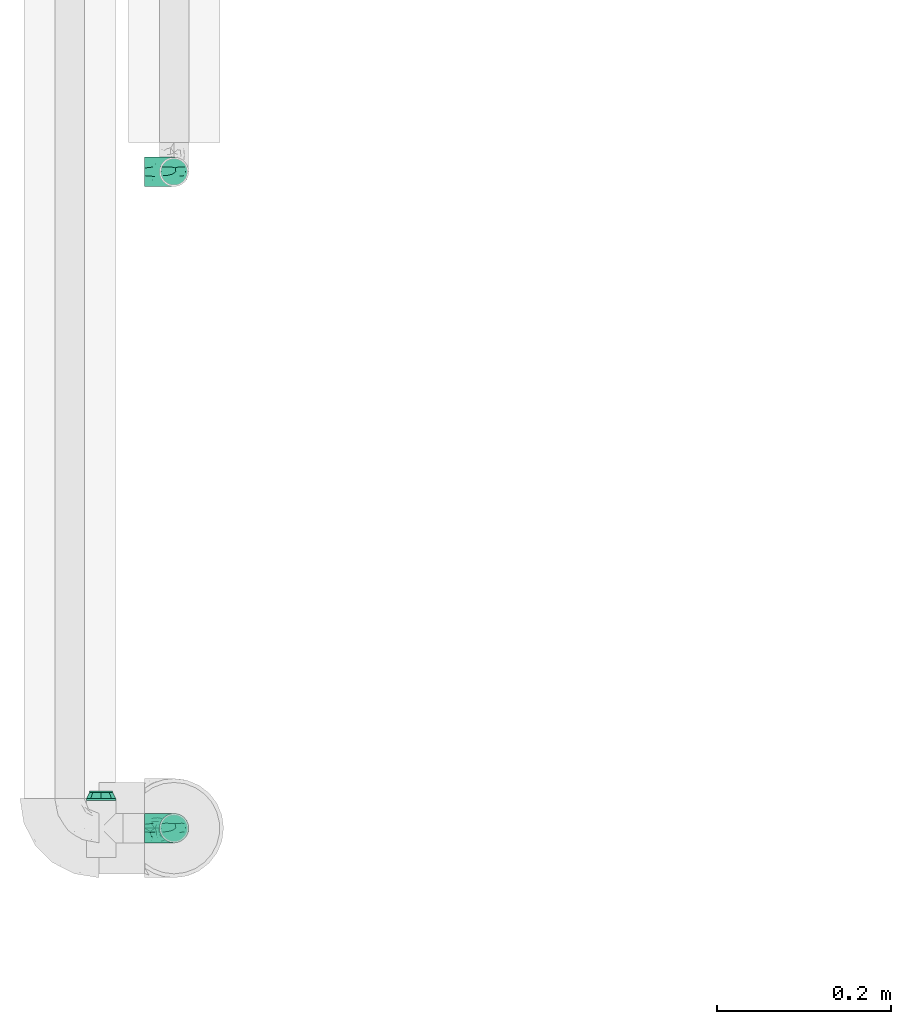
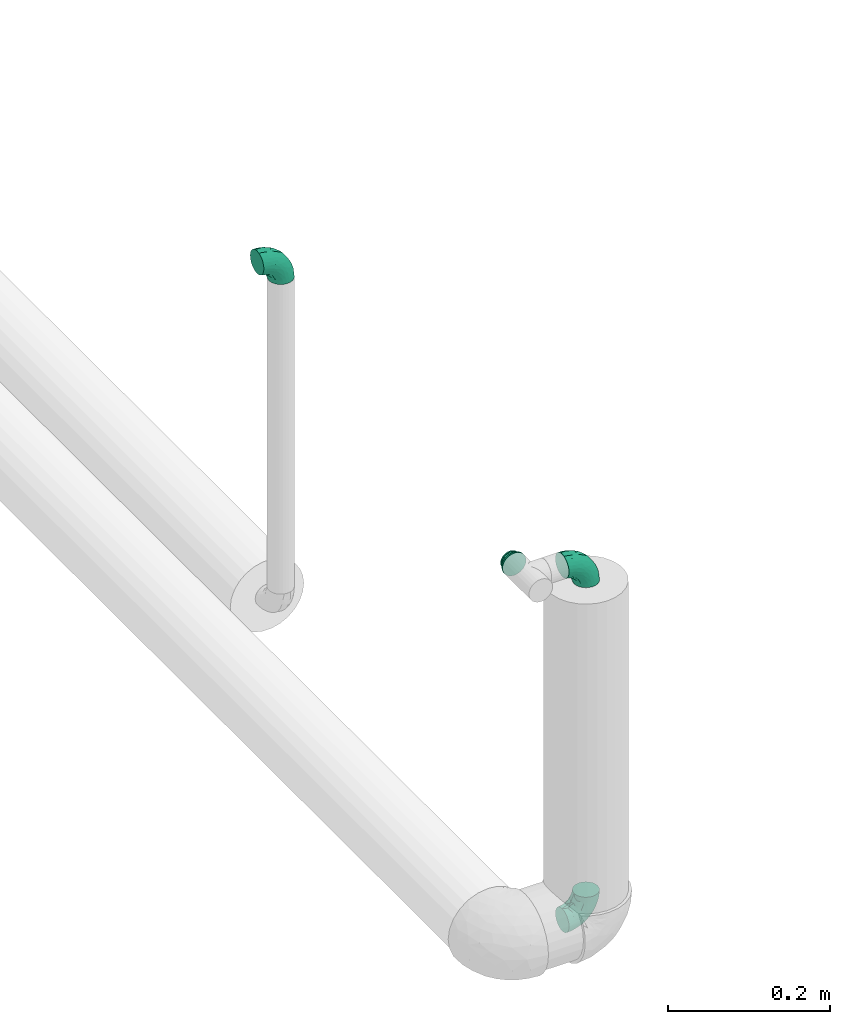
# One storey, part 8 of 17: 4 flow fittings.
"""IFC2X3 building model written with IfcOpenShell, lengths in millimetres."""

from ifc_helpers import new_model, entity, si_unit, converted_unit, derived_unit, direction, frame, origin_with_axes, place, context, subcontext, project, spatial, open_shell, surface_model, source, transform, mapped, type_object, element, save


model = new_model("IFC2X3")

# Units and contexts
model_context = context("Model", 3, precision=0.01, world=frame((0.0, 4.29681676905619e-09, 0.0)), true_north=direction((4.01073788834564e-13, 1.0)))
plan_context = context("Plan", 3, precision=0.01, world=frame((0.0, 4.29681676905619e-09, 0.0)), true_north=direction((4.01073788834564e-13, 1.0)))
body_context = subcontext(model_context, "Body", "Model", "MODEL_VIEW")
ifc_project = project(units=[converted_unit("PLANEANGLEUNIT", "DEGREE", entity("IfcPositiveLengthMeasure", 0.0174532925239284), si_unit("PLANEANGLEUNIT", "RADIAN"), dimensions=[0, 0, 0, 0, 0, 0, 0]), si_unit("AREAUNIT", "SQUARE_METRE"), si_unit("LENGTHUNIT", "METRE", prefix="MILLI"), si_unit("MASSUNIT", "GRAM", prefix="KILO"), si_unit("POWERUNIT", "WATT"), si_unit("PRESSUREUNIT", "PASCAL", prefix="KILO"), si_unit("FORCEUNIT", "NEWTON", prefix="KILO"), si_unit("ELECTRICVOLTAGEUNIT", "VOLT"), si_unit("ELECTRICCURRENTUNIT", "AMPERE"), si_unit("THERMODYNAMICTEMPERATUREUNIT", "DEGREE_CELSIUS"), si_unit("TIMEUNIT", "SECOND"), si_unit("VOLUMEUNIT", "CUBIC_METRE"), derived_unit("LINEARVELOCITYUNIT", [(si_unit("LENGTHUNIT", "METRE"), 1), (si_unit("TIMEUNIT", "SECOND"), -1)]), derived_unit("VOLUMETRICFLOWRATEUNIT", [(si_unit("VOLUMEUNIT", "CUBIC_METRE"), 1), (si_unit("TIMEUNIT", "SECOND"), -1)]), derived_unit("THERMALTRANSMITTANCEUNIT", [(si_unit("POWERUNIT", "WATT"), 1), (si_unit("THERMODYNAMICTEMPERATUREUNIT", "KELVIN"), -1), (si_unit("AREAUNIT", "SQUARE_METRE"), -1)]), derived_unit("SOUNDPRESSUREUNIT", [(si_unit("PRESSUREUNIT", "PASCAL"), 1)])], contexts=[model_context, plan_context])

# Site, building, storey
site_placement = place(None, frame((0.0, -4.29681676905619e-09, 0.0), z_axis=(0.0, 0.0, 1.0), x_axis=(1.0, 0.0, 0.0)))
site = spatial("IfcSite", under=ifc_project, at=site_placement, Name="ENGM", CompositionType="ELEMENT")
building_placement = place(site_placement, frame((0.0, 4.29681676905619e-09, 0.0), z_axis=(0.0, 0.0, 1.0), x_axis=(1.0, 0.0, 0.0)))
building = spatial("IfcBuilding", under=site, at=building_placement, Name="TI", CompositionType="ELEMENT")
storey_placement = place(building_placement, frame((0.0, 0.0, 207370.0), z_axis=(0.0, 0.0, 1.0), x_axis=(1.0, 0.0, 0.0)))
storey = spatial("IfcBuildingStorey", under=building, at=storey_placement, Name="Nivå E", CompositionType="ELEMENT", Elevation=207370.0)

# Flow fittings
pipe_fitting_type_1 = type_object("IfcPipeFittingType", Name="magi_pipe_fe_reducer_centric_short_NOR", PredefinedType="TRANSITION")
shared_shape_1 = source(origin_with_axes(), body_context, "Body", "SurfaceModel", [
    surface_model("IfcShellBasedSurfaceModel", [(-2.0, 11.9501, 11.9501), (-2.0, 0.0, 16.9), (-2.0, 4.37404, 16.32415), (-2.0, 8.45, 14.63583), (-2.0, 14.63583, 8.45), (-2.0, 16.32415, 4.37404), (-2.0, -16.32415, 4.37404), (-2.0, -8.45, 14.63583), (-2.0, -14.63583, 8.45), (-2.0, -11.9501, 11.9501), (-2.0, -4.37404, 16.32415), (-2.0, -16.32415, -4.37404), (-2.0, -16.9, 0.0), (-2.0, -8.45, -14.63583), (-2.0, 16.32415, -4.37404), (-2.0, 11.9501, -11.9501), (-2.0, 14.63583, -8.45), (-2.0, 8.45, -14.63583), (-2.0, 4.37404, -16.32415), (-2.0, 0.0, -16.9), (-2.0, -11.9501, -11.9501), (-2.0, -14.63583, -8.45), (-2.0, -4.37404, -16.32415), (-2.0, 16.9, 0.0), (0.0, 4.37404, -16.32415), (0.0, 8.45, -14.63583), (0.0, 11.9501, -11.9501), (0.0, 0.0, -16.9), (0.0, 16.32415, -4.37404), (0.0, 16.32415, 4.37404), (0.0, 14.63583, -8.45), (0.0, -8.45, -14.63583), (0.0, -4.37404, -16.32415), (0.0, -11.9501, -11.9501), (0.0, -16.32415, -4.37404), (0.0, -14.63583, -8.45), (0.0, -16.32415, 4.37404), (0.0, 16.9, 0.0), (0.0, 14.63583, 8.45), (0.0, 11.9501, 11.9501), (0.0, 4.37404, 16.32415), (0.0, 8.45, 14.63583), (0.0, 0.0, 16.9), (0.0, -14.63583, 8.45), (0.0, -16.9, 0.0), (0.0, -8.45, 14.63583), (0.0, -11.9501, 11.9501), (0.0, -4.37404, 16.32415), (9.0, 12.94341, -3.46818), (9.0, 3.46818, -12.94341), (9.0, 6.7, -11.60474), (9.0, 9.47523, -9.47523), (9.0, -6.7, -11.60474), (9.0, -12.94341, 3.46818), (9.0, 11.60474, -6.7), (9.0, 0.0, -13.4), (9.0, -3.46818, -12.94341), (9.0, -9.47523, -9.47523), (9.0, -12.94341, -3.46818), (9.0, -11.60474, -6.7), (9.0, 13.4, 0.0), (9.0, 12.94341, 3.46818), (9.0, 11.60474, 6.7), (9.0, 9.47523, 9.47523), (9.0, 0.0, 13.4), (9.0, 6.7, 11.60474), (9.0, 3.46818, 12.94341), (9.0, -6.7, 11.60474), (9.0, -9.47523, 9.47523), (9.0, -11.60474, 6.7), (9.0, -13.4, 0.0), (9.0, -3.46818, 12.94341), (7.0, 0.0, 13.4), (7.0, 3.46818, 12.94341), (7.0, 6.7, 11.60474), (7.0, -3.46818, 12.94341), (7.0, 9.47523, 9.47523), (7.0, 11.60474, 6.7), (7.0, 12.94341, 3.46818), (7.0, -12.94341, 3.46818), (7.0, -9.47523, 9.47523), (7.0, -6.7, 11.60474), (7.0, -11.60474, 6.7), (7.0, -12.94341, -3.46818), (7.0, -13.4, 0.0), (7.0, -6.7, -11.60474), (7.0, 12.94341, -3.46818), (7.0, 9.47523, -9.47523), (7.0, 11.60474, -6.7), (7.0, 6.7, -11.60474), (7.0, 3.46818, -12.94341), (7.0, -9.47523, -9.47523), (7.0, -11.60474, -6.7), (7.0, 0.0, -13.4), (7.0, -3.46818, -12.94341), (7.0, 13.4, 0.0), (0.0, 13.18758, -8.96258), (0.0, 14.42505, -5.97505), (7.0, 10.491, -7.02294), (7.0, 11.50677, -4.57065), (0.0, 15.66253, -2.98753), (7.0, 12.45339, -2.28533), (0.0, 2.98753, -15.66253), (0.0, 5.97505, -14.42505), (0.0, 8.96258, -13.18758), (7.0, 4.73762, -11.43761), (7.0, 7.10642, -10.45642), (7.0, 2.36881, -12.41881), (0.0, -14.42505, -5.97505), (7.0, -11.43761, -4.73762), (7.0, -12.41881, -2.36881), (7.0, -2.36881, -12.41881), (7.0, -10.45642, -7.10642), (0.0, -15.70614, -2.88224), (0.0, -13.18758, -8.96258), (7.0, -4.73762, -11.43761), (7.0, -7.10642, -10.45642), (0.0, -5.97505, -14.42505), (0.0, -2.98753, -15.66253), (0.0, -8.96258, -13.18758), (0.0, -13.18758, 8.96258), (0.0, -14.42505, 5.97505), (7.0, -10.491, 7.02294), (7.0, -11.50677, 4.57065), (0.0, -15.66253, 2.98753), (7.0, -12.45339, 2.28533), (0.0, -2.98753, 15.66253), (0.0, -5.97505, 14.42505), (0.0, -8.96258, 13.18758), (7.0, -4.73762, 11.43761), (7.0, -7.10642, 10.45642), (7.0, -2.36881, 12.41881), (0.0, 14.42505, 5.97505), (7.0, 11.43761, 4.73762), (7.0, 12.41881, 2.36881), (7.0, 2.36881, 12.41881), (7.0, 10.45642, 7.10642), (0.0, 15.70614, 2.88224), (0.0, 13.18758, 8.96258), (7.0, 4.73762, 11.43761), (7.0, 7.10642, 10.45642), (0.0, 5.97505, 14.42505), (0.0, 2.98753, 15.66253), (0.0, 8.96258, 13.18758)], [open_shell([[[0, 1, 2]], [[0, 2, 3]], [[0, 4, 5]], [[0, 5, 1]], [[1, 5, 6]], [[7, 8, 9]], [[7, 10, 1]], [[8, 7, 1]], [[1, 6, 8]], [[6, 11, 12]], [[6, 5, 13]], [[5, 14, 15]], [[15, 14, 16]], [[15, 17, 18]], [[13, 5, 15]], [[19, 15, 18]], [[11, 20, 21]], [[20, 11, 13]], [[13, 19, 22]], [[11, 6, 13]], [[15, 19, 13]], [[5, 23, 14]], [[24, 25, 26]], [[27, 24, 26]], [[26, 28, 29]], [[28, 26, 30]], [[26, 29, 31]], [[27, 31, 32]], [[27, 26, 31]], [[33, 34, 35]], [[34, 33, 31]], [[31, 36, 34]], [[29, 28, 37]], [[29, 38, 39]], [[29, 39, 40]], [[40, 36, 31]], [[40, 39, 41]], [[36, 40, 42]], [[42, 43, 36]], [[44, 34, 36]], [[43, 45, 46]], [[43, 42, 45]], [[45, 42, 47]], [[31, 29, 40]], [[11, 34, 12]], [[21, 35, 11]], [[31, 20, 13]], [[21, 20, 33]], [[32, 13, 22]], [[11, 35, 34]], [[34, 44, 12]], [[32, 31, 13]], [[33, 20, 31]], [[33, 35, 21]], [[27, 32, 22]], [[22, 19, 27]], [[18, 24, 19]], [[17, 25, 18]], [[30, 15, 16]], [[17, 15, 26]], [[28, 16, 14]], [[17, 26, 25]], [[25, 24, 18]], [[37, 28, 14]], [[30, 16, 28]], [[30, 26, 15]], [[23, 37, 14]], [[19, 24, 27]], [[5, 29, 23]], [[4, 38, 5]], [[41, 0, 3]], [[4, 0, 39]], [[40, 3, 2]], [[5, 38, 29]], [[29, 37, 23]], [[40, 41, 3]], [[39, 0, 41]], [[39, 38, 4]], [[42, 40, 2]], [[2, 1, 42]], [[10, 47, 1]], [[7, 45, 10]], [[43, 9, 8]], [[7, 9, 46]], [[36, 8, 6]], [[7, 46, 45]], [[45, 47, 10]], [[44, 36, 6]], [[43, 8, 36]], [[43, 46, 9]], [[12, 44, 6]], [[1, 47, 42]], [[33, 44, 27]], [[48, 49, 50]], [[48, 50, 51]], [[52, 49, 53]], [[48, 51, 54]], [[49, 48, 53]], [[55, 52, 56]], [[55, 49, 52]], [[57, 58, 59]], [[53, 58, 57]], [[57, 52, 53]], [[48, 60, 53]], [[61, 62, 63]], [[61, 63, 64]], [[65, 66, 64]], [[65, 64, 63]], [[61, 64, 67]], [[53, 68, 69]], [[70, 58, 53]], [[53, 67, 68]], [[53, 61, 67]], [[71, 67, 64]], [[53, 60, 61]], [[72, 73, 74]], [[75, 72, 74]], [[76, 77, 78]], [[74, 76, 75]], [[78, 79, 76]], [[75, 80, 81]], [[80, 75, 79]], [[80, 79, 82]], [[75, 76, 79]], [[79, 83, 84]], [[79, 78, 85]], [[86, 87, 78]], [[87, 86, 88]], [[89, 85, 78]], [[78, 87, 89]], [[85, 89, 90]], [[83, 91, 92]], [[83, 79, 91]], [[85, 93, 94]], [[79, 85, 91]], [[90, 93, 85]], [[95, 86, 78]], [[83, 58, 84]], [[92, 59, 83]], [[52, 91, 85]], [[92, 91, 57]], [[56, 85, 94]], [[83, 59, 58]], [[58, 70, 84]], [[56, 52, 85]], [[57, 91, 52]], [[57, 59, 92]], [[55, 56, 94]], [[94, 93, 55]], [[90, 49, 93]], [[89, 50, 90]], [[54, 87, 88]], [[89, 87, 51]], [[48, 88, 86]], [[89, 51, 50]], [[50, 49, 90]], [[60, 48, 86]], [[54, 88, 48]], [[54, 51, 87]], [[95, 60, 86]], [[93, 49, 55]], [[78, 61, 95]], [[77, 62, 78]], [[65, 76, 74]], [[77, 76, 63]], [[66, 74, 73]], [[78, 62, 61]], [[61, 60, 95]], [[66, 65, 74]], [[63, 76, 65]], [[63, 62, 77]], [[64, 66, 73]], [[73, 72, 64]], [[75, 71, 72]], [[81, 67, 75]], [[69, 80, 82]], [[81, 80, 68]], [[53, 82, 79]], [[81, 68, 67]], [[67, 71, 75]], [[70, 53, 79]], [[69, 82, 53]], [[69, 68, 80]], [[84, 70, 79]], [[72, 71, 64]], [[72, 80, 95]], [[95, 76, 72]], [[80, 91, 95]], [[91, 93, 95]], [[87, 95, 93]], [[80, 84, 91]], [[42, 39, 46]], [[44, 46, 39]], [[39, 27, 44]], [[26, 27, 39]], [[39, 37, 26]], [[96, 97, 98]], [[99, 100, 101]], [[37, 95, 101]], [[93, 27, 102]], [[103, 104, 105]], [[104, 26, 106]], [[87, 26, 96]], [[103, 107, 102]], [[108, 109, 110]], [[37, 101, 100]], [[27, 93, 111]], [[112, 33, 91]], [[110, 84, 113]], [[109, 114, 112]], [[33, 112, 114]], [[115, 116, 117]], [[115, 118, 111]], [[93, 102, 107]], [[116, 91, 119]], [[27, 111, 118]], [[97, 99, 98]], [[87, 96, 98]], [[100, 99, 97]], [[26, 87, 106]], [[105, 104, 106]], [[107, 103, 105]], [[84, 44, 113]], [[108, 110, 113]], [[114, 109, 108]], [[91, 33, 119]], [[117, 116, 119]], [[118, 115, 117]], [[120, 121, 122]], [[123, 124, 125]], [[44, 84, 125]], [[72, 42, 126]], [[127, 128, 129]], [[128, 46, 130]], [[80, 46, 120]], [[127, 131, 126]], [[132, 133, 134]], [[44, 125, 124]], [[42, 72, 135]], [[136, 39, 76]], [[134, 95, 137]], [[133, 138, 136]], [[39, 136, 138]], [[139, 140, 141]], [[139, 142, 135]], [[72, 126, 131]], [[140, 76, 143]], [[42, 135, 142]], [[121, 123, 122]], [[80, 120, 122]], [[124, 123, 121]], [[46, 80, 130]], [[129, 128, 130]], [[131, 127, 129]], [[95, 37, 137]], [[132, 134, 137]], [[138, 133, 132]], [[76, 39, 143]], [[141, 140, 143]], [[142, 139, 141]]])]),
])
flow_fitting_placement = place(storey_placement, frame((585306.17776, 570757.04678, 3481.39999999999), z_axis=(0.0, 0.0, 1.0), x_axis=(0.0, 1.0, 0.0)))
element("IfcFlowFitting", 1, at=flow_fitting_placement, inside=storey, type_object=pipe_fitting_type_1, Name="magi_pipe_fe_reducer_centric_short_NOR", context=body_context, shape_type="MappedRepresentation", body=[
    mapped(shared_shape_1, transform((0.0, 0.0, 0.0), scale=1.0)),
])
pipe_fitting_type_2 = type_object("IfcPipeFittingType", Name="magi_pipe_fe_elbow_short_001", PredefinedType="BEND")
shared_shape_2 = source(origin_with_axes(), body_context, "Body", "SurfaceModel", [
    surface_model("IfcShellBasedSurfaceModel", [(-33.8, 4.37404, -16.32415), (-33.8, 0.0, -16.9), (-33.8, 11.9501, -11.9501), (-33.8, 8.45, -14.63583), (-33.8, 16.32415, -4.37404), (-33.8, 14.63583, -8.45), (-33.8, -14.63583, -8.45), (-33.8, -16.32415, -4.37404), (-33.8, -8.45, 14.63583), (-33.8, -11.9501, -11.9501), (-33.8, -8.45, -14.63583), (-33.8, -4.37404, -16.32415), (-33.8, -16.9, 0.0), (-33.8, -16.32415, 4.37404), (-33.8, 11.9501, 11.9501), (-33.8, 14.63583, 8.45), (-33.8, 16.32415, 4.37404), (-33.8, 4.37404, 16.32415), (-33.8, 8.45, 14.63583), (-33.8, -14.63583, 8.45), (-33.8, -11.9501, 11.9501), (-33.8, -4.37404, 16.32415), (-33.8, 0.0, 16.9), (-33.8, 16.9, 0.0), (-11.9501, 33.8, -11.9501), (0.0, 33.8, -16.9), (-4.37404, 33.8, -16.32415), (-8.45, 33.8, -14.63583), (-14.63583, 33.8, -8.45), (-16.32415, 33.8, -4.37404), (14.63583, 33.8, -8.45), (8.45, 33.8, 14.63583), (16.32415, 33.8, -4.37404), (8.45, 33.8, -14.63583), (11.9501, 33.8, -11.9501), (4.37404, 33.8, -16.32415), (16.32415, 33.8, 4.37404), (16.9, 33.8, 0.0), (-11.9501, 33.8, 11.9501), (-16.32415, 33.8, 4.37404), (-14.63583, 33.8, 8.45), (-8.45, 33.8, 14.63583), (-4.37404, 33.8, 16.32415), (11.9501, 33.8, 11.9501), (14.63583, 33.8, 8.45), (0.0, 33.8, 16.9), (4.37404, 33.8, 16.32415), (-16.9, 33.8, 0.0), (-24.79389, -13.12945, 9.48721), (-22.19287, -9.75018, 12.59315), (-24.09897, -14.97035, 0.0), (-14.93934, -10.76256, 8.5297), (-22.46095, -14.75051, 5.27077), (14.75051, 22.46094, 5.27077), (11.9251, 13.23888, 4.33236), (13.04069, 14.39795, 0.0), (7.71387, 13.68847, 11.55891), (9.75018, 22.19287, 12.59315), (4.10169, 13.0571, 14.04018), (-24.84007, -6.39063, 15.2048), (-25.81779, -2.23879, 16.61097), (-23.66549, 2.59054, 16.87119), (-26.50418, 14.06512, 11.08152), (-24.21253, 17.66365, 7.72657), (-29.58514, 15.86957, 7.00283), (-6.17382, -7.5455, 0.0), (-13.23888, -11.9251, 4.33236), (-14.39795, -13.04069, 0.0), (-17.81434, 18.87373, 11.97104), (-6.30846, 29.15138, 15.82987), (-2.31622, 25.28002, 16.85849), (-29.23923, 10.23435, 13.77053), (-1.45439, -2.85688, 7.61475), (-0.28326, 0.34872, 10.09509), (-5.74484, -4.04709, 10.4122), (-4.41137, 11.31918, 16.59407), (-8.39727, 3.10034, 15.7812), (-1.72649, 9.1306, 15.53089), (-17.39909, 24.75344, 7.64977), (-26.19233, 20.0512, 0.0), (-28.14518, 17.29657, 4.25857), (-26.05147, 6.6281, 15.96447), (-5.87354, 16.61944, 16.86968), (-12.51807, 12.51807, 16.48937), (-10.06312, 7.38516, 16.81295), (-3.01882, 3.01882, 13.81718), (-13.0571, -4.10169, 14.04018), (-16.82553, -0.15166, 16.38038), (10.76256, 14.93934, 8.5297), (13.12945, 24.79389, 9.48721), (6.39063, 24.84007, 15.2048), (2.23879, 25.81779, 16.61097), (-13.68847, -7.71387, 11.55891), (-7.30894, 22.89991, 16.09489), (-10.67958, 26.17414, 14.008), (-12.78295, 18.26924, 15.06066), (-13.88562, 22.45231, 12.93244), (-18.04944, 15.16501, 14.04434), (-23.11658, 20.08178, 4.02986), (-21.84989, 21.84989, 0.0), (-18.55817, 25.48277, 3.93065), (-13.95142, 26.94732, 11.03289), (-18.57098, 7.23906, 16.59756), (-16.58335, 4.14122, 16.89279), (-17.96666, 11.46709, 15.63151), (-9.84453, 17.54304, 16.18938), (0.15166, 16.82553, 16.38038), (-23.27207, 11.47201, 14.23154), (3.84842, 5.86994, 10.70473), (-8.0212, -7.54413, 7.93275), (1.00345, -2.19508, 4.57414), (5.13203, 3.01004, 5.90201), (5.24161, 1.7543, 2.53265), (8.70457, 7.04947, 3.99182), (-20.0512, 26.19233, 0.0), (8.4852, 8.76699, 7.09296), (-4.55488, -6.72064, 4.90681), (2.05031, -2.05031, 0.0), (7.5455, 6.17382, 0.0), (-26.75399, 2.1369, -16.845), (-14.61995, 24.73803, -11.27736), (-28.45274, -13.45335, -9.81895), (-26.00469, 6.63555, -15.96645), (-23.06726, 20.04573, -4.26202), (-13.80647, -4.26506, -14.17873), (-14.67501, -0.21081, -16.07388), (-6.7902, -0.2828, -13.8478), (-24.53586, 11.08096, -14.13417), (-26.72048, 14.00837, -11.05776), (10.0967, 24.44989, -12.75976), (5.83237, 21.40218, -15.03047), (6.66249, 28.54238, -15.38093), (-20.38182, 15.48705, -12.74596), (12.53268, 21.23441, -9.15363), (12.54494, 15.67504, -5.54878), (9.7522, 12.89279, -8.66343), (-15.65186, 19.64213, -13.01327), (-12.03528, 20.66498, -14.67665), (-15.61907, 15.61906, -14.83879), (-25.56551, -15.26206, 0.0), (-24.65452, -15.12934, -5.50955), (13.45335, 28.45274, -9.81895), (15.12934, 24.65452, -5.50955), (-7.35442, -8.31014, -5.65563), (-15.67504, -12.54494, -5.54878), (-24.44989, -10.0967, -12.75976), (0.16522, 0.41303, -9.71728), (-5.70658, -5.33066, -8.89288), (-5.13869, -2.37198, -11.53565), (-21.23441, -12.53268, -9.15363), (0.71146, 7.93863, -14.09382), (0.21081, 14.67501, -16.07388), (3.49291, 14.42772, -14.76381), (-24.89911, -2.13088, -16.591), (-28.54238, -6.66249, -15.38093), (-18.44386, -7.71663, -13.26957), (2.13088, 24.89911, -16.591), (-28.64342, 17.44413, -2.89318), (1.70017, -1.28722, -5.09504), (-16.57067, 26.81947, -7.36596), (-17.69055, 27.4263, -3.76405), (-12.89279, -9.7522, -8.66343), (-5.96611, 5.96611, -15.95814), (-20.53709, 20.09345, -8.28985), (-2.1369, 26.75399, -16.845), (-6.89872, 24.58781, -16.02578), (-10.60739, 26.53157, -13.98044), (-21.40218, -5.83237, -15.03047), (2.93192, 5.89627, -11.55917), (6.89393, 12.61842, -11.82233), (5.58056, 5.95325, -8.79455), (-3.99512, 18.61798, -16.89635), (8.31014, 7.35442, -5.65563), (-9.1383, 9.86148, -16.89041), (-9.99983, 16.02119, -16.39699), (-16.68576, 9.78031, -16.34199), (-27.01915, 16.61158, -7.12979), (15.26206, 25.56551, 0.0), (-18.61798, 3.99512, -16.89635), (-19.37495, 27.82495, 0.0), (-12.61842, -6.89393, -11.82233), (-18.84705, 19.14018, -10.96545), (14.97035, 24.09897, 0.0)], [open_shell([[[0, 1, 2]], [[3, 0, 2]], [[4, 5, 2]], [[6, 2, 1]], [[2, 7, 8]], [[9, 6, 10]], [[1, 11, 10]], [[10, 6, 1]], [[2, 6, 7]], [[12, 13, 7]], [[4, 2, 14]], [[4, 15, 16]], [[4, 14, 15]], [[17, 18, 14]], [[14, 2, 8]], [[17, 14, 8]], [[19, 20, 13]], [[20, 7, 13]], [[21, 22, 8]], [[20, 8, 7]], [[8, 22, 17]], [[4, 16, 23]], [[24, 25, 26]], [[24, 26, 27]], [[24, 28, 29]], [[25, 24, 30]], [[31, 32, 24]], [[33, 30, 34]], [[33, 35, 25]], [[25, 30, 33]], [[32, 30, 24]], [[32, 36, 37]], [[38, 24, 29]], [[39, 40, 29]], [[40, 38, 29]], [[38, 41, 42]], [[38, 31, 24]], [[31, 38, 42]], [[36, 43, 44]], [[36, 32, 43]], [[31, 45, 46]], [[32, 31, 43]], [[42, 45, 31]], [[39, 29, 47]], [[20, 48, 49]], [[13, 12, 50]], [[51, 48, 52]], [[53, 54, 55]], [[48, 20, 19]], [[13, 52, 19]], [[56, 57, 58]], [[49, 8, 20]], [[49, 59, 8]], [[22, 60, 61]], [[62, 63, 64]], [[65, 66, 67]], [[57, 43, 31]], [[62, 68, 63]], [[42, 69, 70]], [[18, 71, 14]], [[21, 60, 22]], [[72, 73, 74]], [[75, 76, 77]], [[14, 62, 15]], [[40, 39, 78]], [[79, 23, 80]], [[64, 16, 15]], [[22, 61, 17]], [[17, 81, 18]], [[82, 83, 84]], [[74, 85, 86]], [[59, 86, 87]], [[88, 89, 57]], [[90, 31, 46]], [[44, 53, 36]], [[46, 45, 91]], [[54, 53, 88]], [[44, 89, 53]], [[92, 86, 49]], [[89, 44, 43]], [[8, 59, 21]], [[66, 52, 67]], [[93, 82, 70]], [[94, 95, 93]], [[96, 97, 95]], [[79, 98, 99]], [[41, 38, 94]], [[100, 99, 98]], [[68, 78, 63]], [[42, 41, 69]], [[23, 16, 80]], [[94, 93, 69]], [[78, 100, 98]], [[38, 101, 94]], [[70, 45, 42]], [[96, 94, 101]], [[13, 50, 52]], [[90, 57, 31]], [[57, 90, 58]], [[81, 17, 61]], [[102, 103, 84]], [[104, 81, 102]], [[38, 40, 101]], [[105, 95, 83]], [[93, 105, 82]], [[91, 70, 106]], [[71, 62, 14]], [[62, 107, 97]], [[86, 59, 49]], [[67, 52, 50]], [[60, 59, 87]], [[92, 49, 51]], [[86, 85, 76]], [[91, 90, 46]], [[106, 77, 58]], [[106, 58, 90]], [[58, 85, 108]], [[109, 74, 92]], [[72, 74, 109]], [[66, 51, 52]], [[72, 110, 111]], [[112, 113, 111]], [[56, 88, 57]], [[52, 48, 19]], [[49, 48, 51]], [[57, 89, 43]], [[53, 89, 88]], [[102, 81, 61]], [[71, 81, 107]], [[16, 64, 80]], [[63, 78, 98]], [[47, 114, 100]], [[100, 114, 99]], [[40, 78, 101]], [[68, 101, 78]], [[96, 95, 94]], [[104, 97, 107]], [[102, 84, 83]], [[106, 70, 82]], [[76, 84, 87]], [[82, 84, 75]], [[70, 91, 45]], [[90, 91, 106]], [[59, 60, 21]], [[61, 60, 87]], [[73, 85, 74]], [[108, 111, 115]], [[102, 61, 103]], [[104, 102, 83]], [[95, 104, 83]], [[81, 104, 107]], [[95, 97, 104]], [[62, 97, 68]], [[61, 87, 103]], [[87, 84, 103]], [[86, 76, 87]], [[77, 76, 85]], [[58, 77, 85]], [[75, 77, 106]], [[82, 75, 106]], [[76, 75, 84]], [[81, 71, 18]], [[62, 71, 107]], [[94, 69, 41]], [[70, 69, 93]], [[62, 64, 15]], [[80, 63, 98]], [[63, 80, 64]], [[80, 98, 79]], [[66, 65, 116]], [[109, 66, 116]], [[111, 113, 115]], [[117, 116, 65]], [[109, 92, 51]], [[111, 110, 112]], [[118, 55, 54]], [[74, 86, 92]], [[58, 108, 56]], [[115, 56, 108]], [[66, 109, 51]], [[72, 109, 116]], [[110, 72, 116]], [[73, 111, 108]], [[116, 117, 110]], [[112, 110, 117]], [[117, 118, 112]], [[113, 118, 54]], [[118, 113, 112]], [[115, 54, 88]], [[54, 115, 113]], [[115, 88, 56]], [[111, 73, 72]], [[85, 73, 108]], [[78, 39, 100]], [[47, 100, 39]], [[101, 68, 96]], [[96, 68, 97]], [[82, 105, 83]], [[93, 95, 105]], [[0, 119, 1]], [[28, 24, 120]], [[9, 121, 6]], [[3, 122, 0]], [[99, 123, 79]], [[124, 125, 126]], [[127, 2, 128]], [[129, 130, 131]], [[127, 128, 132]], [[133, 134, 135]], [[136, 137, 138]], [[127, 3, 2]], [[67, 139, 140]], [[133, 141, 142]], [[140, 7, 6]], [[143, 65, 144]], [[145, 9, 10]], [[146, 147, 148]], [[144, 140, 149]], [[150, 151, 152]], [[153, 11, 1]], [[10, 154, 145]], [[149, 145, 155]], [[154, 10, 11]], [[142, 134, 133]], [[35, 156, 25]], [[23, 79, 157]], [[147, 158, 143]], [[159, 160, 29]], [[144, 161, 143]], [[162, 151, 150]], [[29, 28, 159]], [[120, 163, 159]], [[33, 34, 129]], [[25, 164, 26]], [[26, 164, 165]], [[141, 34, 30]], [[24, 27, 166]], [[123, 160, 163]], [[156, 35, 131]], [[154, 153, 167]], [[122, 3, 127]], [[168, 169, 170]], [[171, 156, 151]], [[26, 165, 27]], [[131, 35, 33]], [[141, 129, 34]], [[167, 153, 125]], [[135, 134, 172]], [[132, 136, 138]], [[2, 5, 128]], [[169, 130, 129]], [[30, 32, 142]], [[171, 173, 174]], [[175, 122, 127]], [[157, 176, 4]], [[134, 55, 118]], [[166, 27, 165]], [[174, 165, 171]], [[136, 166, 137]], [[121, 140, 6]], [[139, 12, 7]], [[32, 37, 177]], [[169, 129, 133]], [[151, 156, 130]], [[164, 156, 171]], [[152, 169, 150]], [[151, 162, 173]], [[167, 124, 155]], [[121, 145, 149]], [[119, 153, 1]], [[178, 173, 125]], [[178, 125, 153]], [[125, 162, 126]], [[161, 144, 149]], [[139, 7, 140]], [[32, 177, 142]], [[55, 142, 177]], [[176, 128, 5]], [[127, 132, 138]], [[175, 127, 138]], [[119, 122, 178]], [[120, 159, 28]], [[160, 99, 179]], [[165, 174, 137]], [[120, 24, 166]], [[160, 47, 29]], [[79, 123, 157]], [[123, 163, 176]], [[160, 123, 99]], [[135, 170, 169]], [[126, 162, 150]], [[146, 170, 158]], [[147, 143, 161]], [[126, 150, 168]], [[126, 180, 124]], [[128, 176, 163]], [[5, 4, 176]], [[158, 65, 143]], [[67, 140, 144]], [[142, 55, 134]], [[134, 118, 172]], [[122, 119, 0]], [[153, 119, 178]], [[156, 164, 25]], [[165, 164, 171]], [[171, 151, 173]], [[175, 138, 174]], [[125, 173, 162]], [[175, 173, 178]], [[173, 175, 174]], [[122, 175, 178]], [[149, 180, 161]], [[126, 148, 180]], [[180, 147, 161]], [[158, 147, 146]], [[170, 135, 172]], [[169, 133, 135]], [[158, 170, 172]], [[170, 146, 168]], [[168, 146, 148]], [[150, 169, 168]], [[163, 181, 128]], [[181, 120, 136]], [[180, 148, 147]], [[168, 148, 126]], [[181, 136, 132]], [[166, 136, 120]], [[165, 137, 166]], [[174, 138, 137]], [[128, 181, 132]], [[120, 181, 163]], [[160, 159, 163]], [[47, 160, 179]], [[176, 157, 123]], [[23, 157, 4]], [[129, 131, 33]], [[156, 131, 130]], [[142, 141, 30]], [[129, 141, 133]], [[153, 154, 11]], [[145, 154, 167]], [[145, 121, 9]], [[140, 121, 149]], [[151, 130, 152]], [[158, 118, 117]], [[67, 144, 65]], [[169, 152, 130]], [[118, 158, 172]], [[158, 117, 65]], [[155, 124, 180]], [[125, 124, 167]], [[149, 155, 180]], [[167, 155, 145]], [[53, 55, 182]], [[182, 36, 53]], [[37, 36, 182]]])]),
])
for number, where, z_axis, x_axis, name in (
    (2, (585389.97776, 570723.24678, 2946.92527000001), (0.0, 1.0, 0.0), (0.0, 0.0, -1.0), "magi_pipe_fe_elbow_short_001"),
    (3, (585389.97776, 571476.94173, 3481.39999999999), (0.0, -1.0, 0.0), (0.0, 0.0, 1.0), "magi_pipe_fe_elbow_short_001"),
    (4, (585389.97776, 570723.24678, 3481.39999999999), (0.0, -1.0, 0.0), (0.0, 0.0, 1.0), "magi_pipe_fe_elbow_short_001"),
):
    element("IfcFlowFitting", number, at=place(storey_placement, frame(where, z_axis=z_axis, x_axis=x_axis)), inside=storey, type_object=pipe_fitting_type_2, Name=name, context=body_context, shape_type="MappedRepresentation", body=[
        mapped(shared_shape_2, transform((0.0, 0.0, 0.0), scale=1.0)),
    ])

save(model, "model.ifc")
